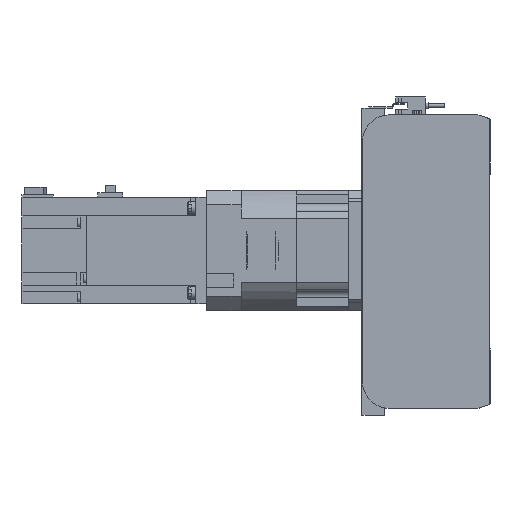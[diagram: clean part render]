
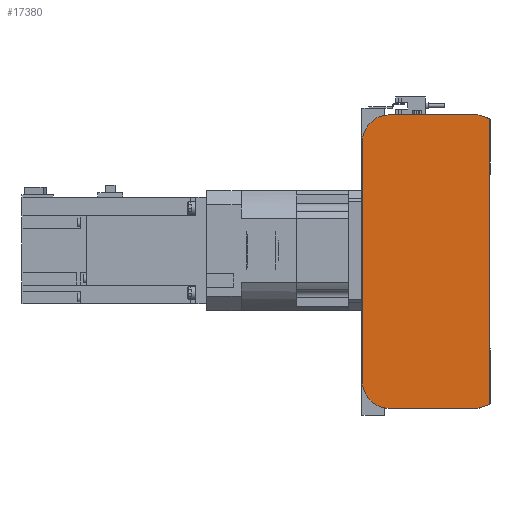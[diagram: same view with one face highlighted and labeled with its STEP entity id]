
A CAD part, left-side view. The second image highlights one B-rep face of the part: STEP entity #17380.
In plain terms, the highlighted planar face has unit normal (-1, 0, 0).
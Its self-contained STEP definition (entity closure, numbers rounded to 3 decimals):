
#982=CIRCLE('',#18956,20.);
#983=CIRCLE('',#18959,20.);
#4414=ORIENTED_EDGE('',*,*,#7560,.F.);
#4415=ORIENTED_EDGE('',*,*,#7602,.F.);
#4416=ORIENTED_EDGE('',*,*,#7600,.F.);
#4417=ORIENTED_EDGE('',*,*,#7598,.F.);
#4418=ORIENTED_EDGE('',*,*,#7587,.F.);
#4419=ORIENTED_EDGE('',*,*,#7578,.F.);
#4420=ORIENTED_EDGE('',*,*,#7574,.F.);
#4421=ORIENTED_EDGE('',*,*,#7571,.F.);
#7560=EDGE_CURVE('',#9477,#9478,#11035,.T.);
#7571=EDGE_CURVE('',#9478,#9485,#11046,.T.);
#7574=EDGE_CURVE('',#9485,#9487,#11049,.T.);
#7578=EDGE_CURVE('',#9487,#9488,#11053,.T.);
#7587=EDGE_CURVE('',#9488,#9494,#11062,.T.);
#7598=EDGE_CURVE('',#9494,#9501,#982,.T.);
#7600=EDGE_CURVE('',#9501,#9502,#11074,.T.);
#7602=EDGE_CURVE('',#9502,#9477,#983,.T.);
#9477=VERTEX_POINT('',#28566);
#9478=VERTEX_POINT('',#28568);
#9485=VERTEX_POINT('',#28587);
#9487=VERTEX_POINT('',#28593);
#9488=VERTEX_POINT('',#28599);
#9494=VERTEX_POINT('',#28615);
#9501=VERTEX_POINT('',#28634);
#9502=VERTEX_POINT('',#28638);
#11035=LINE('',#28567,#12600);
#11046=LINE('',#28586,#12611);
#11049=LINE('',#28592,#12614);
#11053=LINE('',#28598,#12618);
#11062=LINE('',#28614,#12627);
#11074=LINE('',#28637,#12639);
#12600=VECTOR('',#23019,1000.);
#12611=VECTOR('',#23032,1000.);
#12614=VECTOR('',#23037,1000.);
#12618=VECTOR('',#23043,1000.);
#12627=VECTOR('',#23054,1000.);
#12639=VECTOR('',#23072,1000.);
#14024=EDGE_LOOP('',(#4414,#4415,#4416,#4417,#4418,#4419,#4420,#4421));
#15550=FACE_BOUND('',#14024,.T.);
#16515=PLANE('',#18960);
#17380=ADVANCED_FACE('',(#15550),#16515,.F.);
#18956=AXIS2_PLACEMENT_3D('',#28633,#23067,#23068);
#18959=AXIS2_PLACEMENT_3D('',#28641,#23076,#23077);
#18960=AXIS2_PLACEMENT_3D('',#28642,#23078,#23079);
#23019=DIRECTION('',(0.,-1.,0.));
#23032=DIRECTION('',(0.,-0.945,-0.328));
#23037=DIRECTION('',(0.,0.,-1.));
#23043=DIRECTION('',(0.,0.945,-0.328));
#23054=DIRECTION('',(0.,1.,0.));
#23067=DIRECTION('',(1.,0.,0.));
#23068=DIRECTION('',(0.,0.,-1.));
#23072=DIRECTION('',(0.,0.,1.));
#23076=DIRECTION('',(1.,0.,0.));
#23077=DIRECTION('',(0.,0.,-1.));
#23078=DIRECTION('',(1.,0.,0.));
#23079=DIRECTION('',(0.,0.,-1.));
#28566=CARTESIAN_POINT('',(0.,75.5,110.));
#28567=CARTESIAN_POINT('',(0.,75.5,110.));
#28568=CARTESIAN_POINT('',(0.,9.,110.));
#28586=CARTESIAN_POINT('',(0.,9.,110.));
#28587=CARTESIAN_POINT('',(0.,0.5,107.05));
#28592=CARTESIAN_POINT('',(0.,0.5,107.05));
#28593=CARTESIAN_POINT('',(0.,0.5,-107.05));
#28598=CARTESIAN_POINT('',(0.,0.5,-107.05));
#28599=CARTESIAN_POINT('',(0.,9.,-110.));
#28614=CARTESIAN_POINT('',(0.,9.,-110.));
#28615=CARTESIAN_POINT('',(0.,75.5,-110.));
#28633=CARTESIAN_POINT('',(0.,75.5,-90.));
#28634=CARTESIAN_POINT('',(0.,95.5,-90.));
#28637=CARTESIAN_POINT('',(0.,95.5,-90.));
#28638=CARTESIAN_POINT('',(0.,95.5,90.));
#28641=CARTESIAN_POINT('',(0.,75.5,90.));
#28642=CARTESIAN_POINT('',(0.,75.5,-90.));
